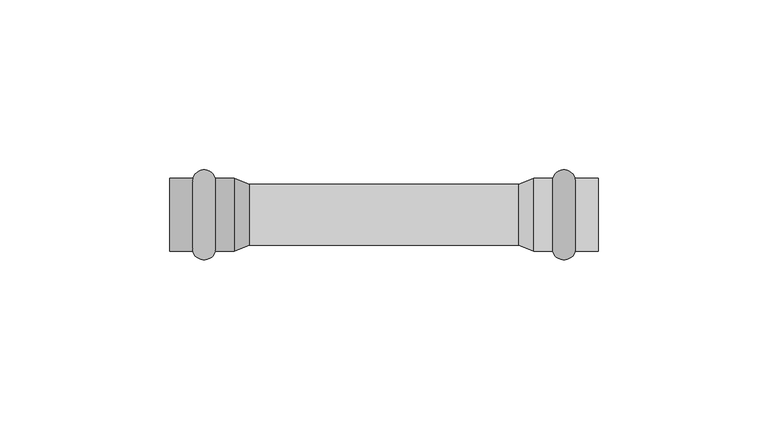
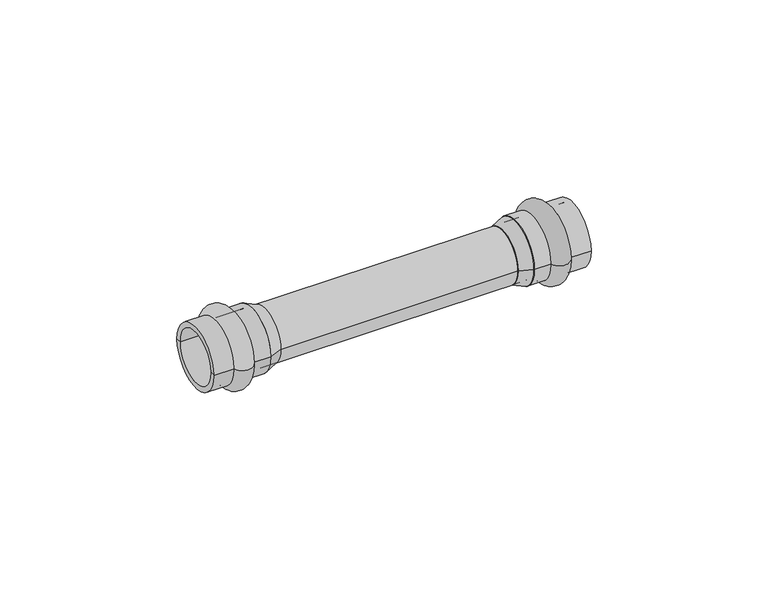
"""IFC4 building model written with IfcOpenShell, lengths in millimetres: pipe fitting geometry, VALTEC_VTi.903.I_Соединитель прямой нержавеющая сталь : VTi.903.I."""

from ifc_helpers import new_model, si_unit, point, frame, origin, origin_2d, place, context, project, spatial, polyline, circle_curve, ellipse_curve, trimmed, segment, composite_curve, outline, extrude, source, transform, mapped, element, save
from ifc_brep_helpers import plane_surface, cylinder_surface, revolved_surface, advanced_brep


def pipe_fitting_1900a35a(model_context):
    return source(origin(), model_context, "Body", "SolidModel", [
        advanced_brep(
        [(119.2287193, 10.75, 0.0), (119.2287193, -10.75, 0.0), (112.6712807, -10.75, 0.0), (112.6712807, 10.75, 0.0), (126.0, 10.75, 0.0), (126.0, -10.75, 0.0), (126.0, 9.0, 0.0), (126.0, -9.0, 0.0), (107.1, 9.0, 0.0), (107.1, -9.0, 0.0), (107.1, 10.75, 0.0), (107.1, -10.75, 0.0)],
        [
            (0, 1, circle_curve(frame((119.2287193, 0.0, 0.0), z_axis=(-1.0, 0.0, 0.0), x_axis=(0.0, -1.0, 0.0)), 10.75)),
            (1, 2, circle_curve(frame((115.95, -9.85, 0.0), z_axis=(0.0, 0.0, -1.0), x_axis=(-1.0, 0.0, 0.0)), 3.4)),
            (2, 3, circle_curve(frame((112.6712807, 0.0, 0.0), z_axis=(1.0, 0.0, 0.0), x_axis=(0.0, -1.0, 0.0)), 10.75)),
            (3, 0, circle_curve(frame((115.95, 9.85, 0.0), z_axis=(0.0, 0.0, -1.0), x_axis=(-1.0, 0.0, 0.0)), 3.4)),
            (1, 0, circle_curve(frame((119.2287193, 0.0, 0.0), z_axis=(-1.0, 0.0, 0.0), x_axis=(0.0, -1.0, 0.0)), 10.75)),
            (3, 2, circle_curve(frame((112.6712807, 0.0, 0.0), z_axis=(1.0, 0.0, 0.0), x_axis=(0.0, -1.0, 0.0)), 10.75)),
            (4, 5, circle_curve(frame((126.0, 0.0, 0.0), z_axis=(-1.0, 0.0, 0.0), x_axis=(0.0, -1.0, 0.0)), 10.75)),
            (5, 1),
            (0, 4),
            (5, 4, circle_curve(frame((126.0, 0.0, 0.0), z_axis=(-1.0, 0.0, 0.0), x_axis=(0.0, -1.0, 0.0)), 10.75)),
            (6, 7, circle_curve(frame((126.0, 0.0, 0.0), z_axis=(-1.0, 0.0, 0.0), x_axis=(0.0, -1.0, 0.0)), 9.0)),
            (7, 5),
            (4, 6),
            (7, 6, circle_curve(frame((126.0, 0.0, 0.0), z_axis=(-1.0, 0.0, 0.0), x_axis=(0.0, -1.0, 0.0)), 9.0)),
            (8, 9, circle_curve(frame((107.1, 0.0, 0.0), z_axis=(-1.0, 0.0, 0.0), x_axis=(0.0, -1.0, 0.0)), 9.0)),
            (9, 7),
            (6, 8),
            (9, 8, circle_curve(frame((107.1, 0.0, 0.0), z_axis=(-1.0, 0.0, 0.0), x_axis=(0.0, -1.0, 0.0)), 9.0)),
            (10, 11, circle_curve(frame((107.1, 0.0, 0.0), z_axis=(-1.0, 0.0, 0.0), x_axis=(0.0, -1.0, 0.0)), 10.75)),
            (11, 9),
            (8, 10),
            (11, 10, circle_curve(frame((107.1, 0.0, 0.0), z_axis=(-1.0, 0.0, 0.0), x_axis=(0.0, -1.0, 0.0)), 10.75)),
            (2, 11),
            (10, 3),
        ],
        [
            revolved_surface(trimmed(ellipse_curve(frame((115.95, -9.85, 0.0), z_axis=(0.0, 0.0, 1.0), x_axis=(-1.0, 0.0, 0.0)), 3.4, 3.4), [point((112.6712807, -10.75, 0.0))], [point((119.2287193, -10.75, 0.0))], True, "CARTESIAN"), (129.5364426, 0.0, 0.0), (1.0, 0.0, 0.0)),
            cylinder_surface(frame((129.5364426, 0.0, 0.0), z_axis=(1.0, 0.0, 0.0), x_axis=(0.0, -1.0, 0.0)), 10.75),
            plane_surface(frame((126.0, 0.0, 0.0), z_axis=(1.0, 0.0, 0.0), x_axis=(0.0, -1.0, 0.0))),
            revolved_surface(polyline([(126.0, -9.0, 0.0), (107.1, -9.0, 0.0)]), (129.5364426, 0.0, 0.0), (1.0, 0.0, 0.0)),
            plane_surface(frame((107.1, 0.0, 0.0), z_axis=(-1.0, 0.0, 0.0), x_axis=(0.0, -1.0, 0.0))),
        ],
        [
            (0, [[1, 2, 3, 4]]),
            (0, [[5, -4, 6, -2]]),
            (1, [[7, 8, -1, 9]]),
            (1, [[10, -9, -5, -8]]),
            (2, [[11, 12, -7, 13]]),
            (2, [[14, -13, -10, -12]]),
            (3, [[15, 16, -11, 17]]),
            (3, [[18, -17, -14, -16]]),
            (4, [[19, 20, -15, 21]]),
            (4, [[22, -21, -18, -20]]),
            (1, [[-3, 23, -19, 24]]),
            (1, [[-6, -24, -22, -23]]),
        ],
    ),
        advanced_brep(
        [(6.7712807, -10.75, 0.0), (6.7712807, 10.75, 0.0), (13.3287193, 10.75, 0.0), (13.3287193, -10.75, 0.0), (0.0, -10.75, 0.0), (0.0, 10.75, 0.0), (0.0, -9.0, 0.0), (0.0, 9.0, 0.0), (18.9, -9.0, 0.0), (18.9, 9.0, 0.0), (18.9, -10.75, 0.0), (18.9, 10.75, 0.0)],
        [
            (0, 1, circle_curve(frame((6.7712807, 0.0, 0.0), z_axis=(1.0, 0.0, 0.0), x_axis=(0.0, 1.0, 0.0)), 10.75)),
            (1, 2, circle_curve(frame((10.05, 9.85, 0.0), z_axis=(0.0, 0.0, -1.0), x_axis=(1.0, 0.0, 0.0)), 3.4)),
            (2, 3, circle_curve(frame((13.3287193, 0.0, 0.0), z_axis=(-1.0, 0.0, 0.0), x_axis=(0.0, 1.0, 0.0)), 10.75)),
            (3, 0, circle_curve(frame((10.05, -9.85, 0.0), z_axis=(0.0, 0.0, -1.0), x_axis=(1.0, 0.0, 0.0)), 3.4)),
            (1, 0, circle_curve(frame((6.7712807, 0.0, 0.0), z_axis=(1.0, 0.0, 0.0), x_axis=(0.0, 1.0, 0.0)), 10.75)),
            (3, 2, circle_curve(frame((13.3287193, 0.0, 0.0), z_axis=(-1.0, 0.0, 0.0), x_axis=(0.0, 1.0, 0.0)), 10.75)),
            (4, 5, circle_curve(frame((0.0, 0.0, 0.0), z_axis=(1.0, 0.0, 0.0), x_axis=(0.0, 1.0, 0.0)), 10.75)),
            (5, 1),
            (0, 4),
            (5, 4, circle_curve(frame((0.0, 0.0, 0.0), z_axis=(1.0, 0.0, 0.0), x_axis=(0.0, 1.0, 0.0)), 10.75)),
            (6, 7, circle_curve(frame((0.0, 0.0, 0.0), z_axis=(1.0, 0.0, 0.0), x_axis=(0.0, 1.0, 0.0)), 9.0)),
            (7, 5),
            (4, 6),
            (7, 6, circle_curve(frame((0.0, 0.0, 0.0), z_axis=(1.0, 0.0, 0.0), x_axis=(0.0, 1.0, 0.0)), 9.0)),
            (8, 9, circle_curve(frame((18.9, 0.0, 0.0), z_axis=(1.0, 0.0, 0.0), x_axis=(0.0, 1.0, 0.0)), 9.0)),
            (9, 7),
            (6, 8),
            (9, 8, circle_curve(frame((18.9, 0.0, 0.0), z_axis=(1.0, 0.0, 0.0), x_axis=(0.0, 1.0, 0.0)), 9.0)),
            (10, 11, circle_curve(frame((18.9, 0.0, 0.0), z_axis=(1.0, 0.0, 0.0), x_axis=(0.0, 1.0, 0.0)), 10.75)),
            (11, 9),
            (8, 10),
            (11, 10, circle_curve(frame((18.9, 0.0, 0.0), z_axis=(1.0, 0.0, 0.0), x_axis=(0.0, 1.0, 0.0)), 10.75)),
            (2, 11),
            (10, 3),
        ],
        [
            revolved_surface(trimmed(ellipse_curve(frame((10.05, 9.85, 0.0), z_axis=(0.0, 0.0, 1.0), x_axis=(1.0, 0.0, 0.0)), 3.4, 3.4), [point((13.3287193, 10.75, 0.0))], [point((6.7712807, 10.75, 0.0))], True, "CARTESIAN"), (-3.5364426, 0.0, 0.0), (-1.0, 0.0, 0.0)),
            cylinder_surface(frame((-3.5364426, 0.0, 0.0), z_axis=(-1.0, 0.0, 0.0), x_axis=(0.0, 1.0, 0.0)), 10.75),
            plane_surface(frame((0.0, 0.0, 0.0), z_axis=(-1.0, 0.0, 0.0), x_axis=(0.0, 1.0, 0.0))),
            revolved_surface(polyline([(0.0, 9.0, 0.0), (18.9, 9.0, 0.0)]), (-3.5364426, 0.0, 0.0), (-1.0, 0.0, 0.0)),
            plane_surface(frame((18.9, 0.0, 0.0), z_axis=(1.0, 0.0, 0.0), x_axis=(0.0, 1.0, 0.0))),
        ],
        [
            (0, [[1, 2, 3, 4]]),
            (0, [[5, -4, 6, -2]]),
            (1, [[7, 8, -1, 9]]),
            (1, [[10, -9, -5, -8]]),
            (2, [[11, 12, -7, 13]]),
            (2, [[14, -13, -10, -12]]),
            (3, [[15, 16, -11, 17]]),
            (3, [[18, -17, -14, -16]]),
            (4, [[19, 20, -15, 21]]),
            (4, [[22, -21, -18, -20]]),
            (1, [[-3, 23, -19, 24]]),
            (1, [[-6, -24, -22, -23]]),
        ],
    ),
        advanced_brep(
        [(18.9, -10.75, 0.0), (18.9, 10.75, 0.0), (23.31, -9.0, 0.0), (23.31, 9.0, 0.0)],
        [
            (0, 1, circle_curve(frame((18.9, 0.0, 0.0), z_axis=(-1.0, 0.0, 0.0), x_axis=(0.0, -1.0, 0.0)), 10.75)),
            (1, 0, circle_curve(frame((18.9, 0.0, 0.0), z_axis=(-1.0, 0.0, 0.0), x_axis=(0.0, 1.0, 0.0)), 10.75)),
            (2, 3, circle_curve(frame((23.31, 0.0, 0.0), z_axis=(1.0, 0.0, 0.0), x_axis=(0.0, 1.0, 0.0)), 9.0)),
            (3, 2, circle_curve(frame((23.31, 0.0, 0.0), z_axis=(1.0, 0.0, 0.0), x_axis=(0.0, -1.0, 0.0)), 9.0)),
            (2, 0),
            (1, 3),
        ],
        [
            plane_surface(frame((18.9, 0.0, 0.0), z_axis=(-1.0, 0.0, 0.0), x_axis=(0.0, 0.0, 1.0))),
            plane_surface(frame((23.31, 0.0, 0.0), z_axis=(1.0, 0.0, 0.0), x_axis=(0.0, 0.0, 1.0))),
            revolved_surface(polyline([(23.31, -9.0, 0.0), (18.9, -10.75, 0.0)]), (45.99, 0.0, 0.0), (-1.0, 0.0, 0.0)),
            revolved_surface(polyline([(23.31, 9.0, 0.0), (18.9, 10.75, 0.0)]), (45.99, 0.0, 0.0), (-1.0, 0.0, 0.0)),
        ],
        [
            (0, [[1, 2]]),
            (1, [[3, 4]]),
            (2, [[-3, 5, -2, 6]]),
            (3, [[-4, -6, -1, -5]]),
        ],
    ),
        advanced_brep(
        [(107.1, -10.75, 0.0), (107.1, 10.75, 0.0), (102.69, -9.0, 0.0), (102.69, 9.0, 0.0)],
        [
            (0, 1, circle_curve(frame((107.1, 0.0, 0.0), z_axis=(1.0, 0.0, 0.0), x_axis=(0.0, -1.0, 0.0)), 10.75)),
            (1, 0, circle_curve(frame((107.1, 0.0, 0.0), z_axis=(1.0, 0.0, 0.0), x_axis=(0.0, 1.0, 0.0)), 10.75)),
            (2, 3, circle_curve(frame((102.69, 0.0, 0.0), z_axis=(-1.0, 0.0, 0.0), x_axis=(0.0, 1.0, 0.0)), 9.0)),
            (3, 2, circle_curve(frame((102.69, 0.0, 0.0), z_axis=(-1.0, 0.0, 0.0), x_axis=(0.0, -1.0, 0.0)), 9.0)),
            (3, 1),
            (0, 2),
        ],
        [
            plane_surface(frame((107.1, 0.0, 0.0), z_axis=(1.0, 0.0, 0.0), x_axis=(0.0, 0.0, -1.0))),
            plane_surface(frame((102.69, 0.0, 0.0), z_axis=(-1.0, 0.0, 0.0), x_axis=(0.0, 0.0, -1.0))),
            revolved_surface(polyline([(102.69, 9.0, 0.0), (107.1, 10.75, 0.0)]), (80.01, 0.0, 0.0), (1.0, 0.0, 0.0)),
            revolved_surface(polyline([(102.69, -9.0, 0.0), (107.1, -10.75, 0.0)]), (80.01, 0.0, 0.0), (1.0, 0.0, 0.0)),
        ],
        [
            (0, [[1, 2]]),
            (1, [[3, 4]]),
            (2, [[-4, 5, -1, 6]]),
            (3, [[-3, -6, -2, -5]]),
        ],
    ),
        extrude(outline(composite_curve([segment(trimmed(circle_curve(origin_2d(), 9.0), [point((-9.0, 0.0))], [point((9.0, 0.0))], False, "CARTESIAN"), True, "CONTINUOUS"), segment(trimmed(circle_curve(origin_2d(), 9.0), [point((9.0, 0.0))], [point((-9.0, 0.0))], False, "CARTESIAN"), True, "CONTINUOUS")], self_intersect=False)), frame((18.9, 0.0, 0.0), z_axis=(1.0, 0.0, 0.0), x_axis=(0.0, 1.0, 0.0)), (0.0, 0.0, 1.0), 88.2),
    ])


if __name__ == "__main__":
    model = new_model("IFC4")
    model_context = context("Model", 3, world=origin())
    ifc_project = project(units=[si_unit("LENGTHUNIT", "METRE", prefix="MILLI")], contexts=[model_context])
    site = spatial("IfcSite", under=ifc_project)
    building = spatial("IfcBuilding", under=site)
    placement = place(None, origin())
    pipe_fitting_shape = pipe_fitting_1900a35a(model_context)
    element("IfcPipeFitting", 1, ObjectType="VALTEC_VTi.903.I_Соединитель прямой нержавеющая сталь : VTi.903.I", at=placement, inside=building, context=model_context, shape_type="MappedRepresentation", body=[
        mapped(pipe_fitting_shape, transform((0.0, 0.0, 0.0), x_axis=(1.0, 0.0, 0.0), y_axis=(0.0, 1.0, 0.0), z_axis=(0.0, 0.0, 1.0))),
    ])
    save(model, "model.ifc")
